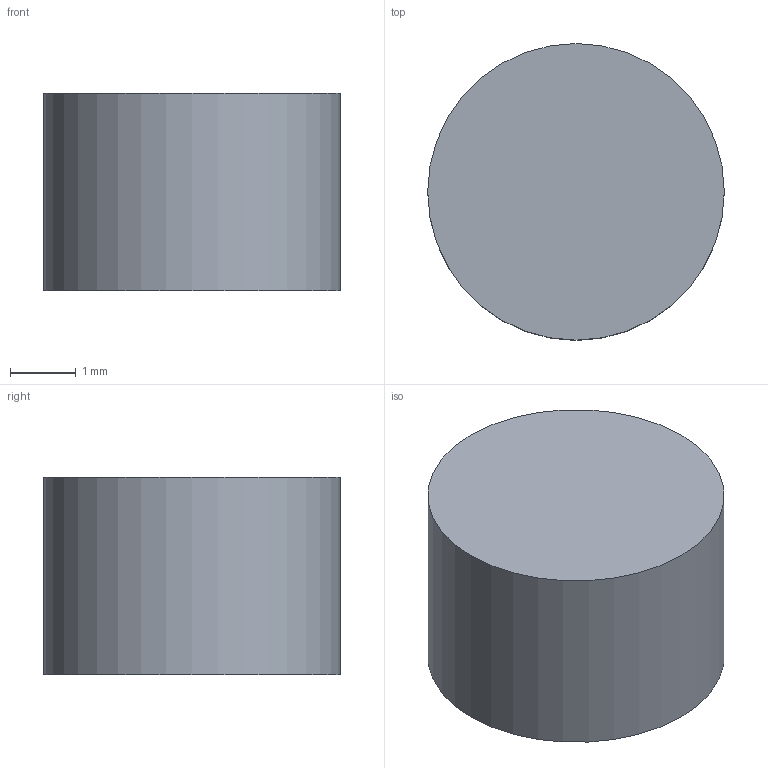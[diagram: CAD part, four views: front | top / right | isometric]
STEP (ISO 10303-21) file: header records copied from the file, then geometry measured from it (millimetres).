
FILE_DESCRIPTION(('Open CASCADE Model'),'2;1');
FILE_NAME('Open CASCADE Shape Model','2026-10-06T03:35:42',('Author'),( 'Open CASCADE'),'Open CASCADE STEP processor 7.8','Open CASCADE 7.8' ,'Unknown');
FILE_SCHEMA(('AUTOMOTIVE_DESIGN { 1 0 10303 214 1 1 1 1 }'));
Length unit declared in the file: millimetre
Products named in the file (1): Open CASCADE STEP translator 7.8 14
Bounding box: 4.5 x 4.5 x 3 mm (x, y, z)
Volume: 47.7 mm3; surface area: 74.2 mm2
Topology: 1 solids, 1 shells, 3 faces, 3 edges, 2 vertices
Faces by surface type: plane 2, cylinder 1
Full cylindrical faces by diameter (mm): 4.5 x1
Entity records: 108 total; most frequent: DIRECTION 19, CARTESIAN_POINT 15, AXIS2_PLACEMENT_3D 6, ORIENTED_EDGE 6, PCURVE 6, DEFINITIONAL_REPRESENTATION 6, LINE 5, VECTOR 5
